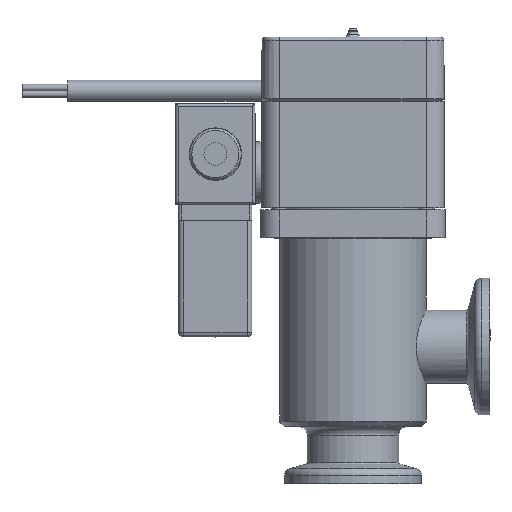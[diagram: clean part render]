
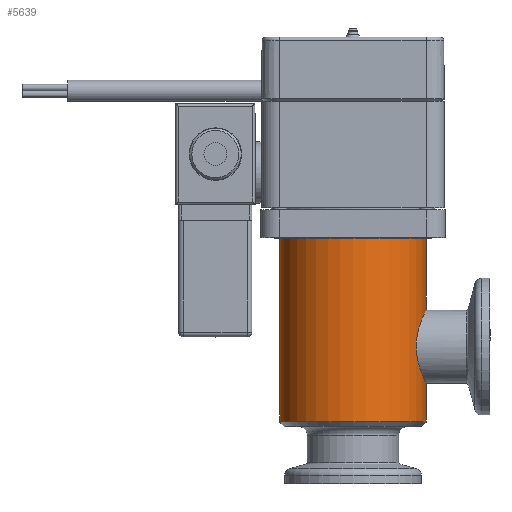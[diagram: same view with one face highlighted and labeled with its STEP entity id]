
A CAD part, top view. The second image highlights one B-rep face of the part: STEP entity #5639.
In plain terms, the highlighted cylindrical face has radius 16 mm (diameter 32 mm), a full revolution.
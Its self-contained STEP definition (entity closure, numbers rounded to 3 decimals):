
#1845=B_SPLINE_CURVE_WITH_KNOTS('',3,(#22851,#22852,#22853,#22854,#22855,
#22856,#22857,#22858,#22859,#22860,#22861,#22862,#22863,#22864,#22865,#22866,
#22867,#22868),.UNSPECIFIED.,.T.,.F.,(2,2,2,2,2,2,2,2,2,2,2),(-0.125,0.,
0.125,0.25,0.375,0.5,0.625,0.75,0.875,1.,1.125),.UNSPECIFIED.);
#5639=ADVANCED_FACE('',(#6316,#6317,#6318),#5842,.T.);
#5842=CYLINDRICAL_SURFACE('',#14750,16.);
#6316=FACE_BOUND('',#7300,.T.);
#6317=FACE_BOUND('',#7301,.T.);
#6318=FACE_BOUND('',#7302,.T.);
#7300=EDGE_LOOP('',(#10298));
#7301=EDGE_LOOP('',(#10299));
#7302=EDGE_LOOP('',(#10300));
#10298=ORIENTED_EDGE('',*,*,#13099,.T.);
#10299=ORIENTED_EDGE('',*,*,#13100,.T.);
#10300=ORIENTED_EDGE('',*,*,#13101,.T.);
#11566=VERTEX_POINT('',#22848);
#11567=VERTEX_POINT('',#22850);
#11568=VERTEX_POINT('',#22869);
#13099=EDGE_CURVE('',#11566,#11566,#13642,.T.);
#13100=EDGE_CURVE('',#11567,#11567,#13643,.T.);
#13101=EDGE_CURVE('',#11568,#11568,#1845,.T.);
#13642=CIRCLE('',#14748,16.);
#13643=CIRCLE('',#14749,16.);
#14748=AXIS2_PLACEMENT_3D('',#22847,#17910,#17911);
#14749=AXIS2_PLACEMENT_3D('',#22849,#17912,#17913);
#14750=AXIS2_PLACEMENT_3D('',#22870,#17914,#17915);
#17910=DIRECTION('',(1.,0.,0.));
#17911=DIRECTION('',(0.,0.,-1.));
#17912=DIRECTION('',(-1.,0.,0.));
#17913=DIRECTION('',(0.,0.,1.));
#17914=DIRECTION('',(-1.,0.,0.));
#17915=DIRECTION('',(0.,0.,1.));
#22847=CARTESIAN_POINT('',(13.5,0.,0.));
#22848=CARTESIAN_POINT('',(13.5,0.,-16.));
#22849=CARTESIAN_POINT('',(53.7,0.,0.));
#22850=CARTESIAN_POINT('',(53.7,0.,16.));
#22851=CARTESIAN_POINT('',(28.398,14.832,-6.));
#22852=CARTESIAN_POINT('',(31.602,14.832,-6.));
#22853=CARTESIAN_POINT('',(33.147,15.126,-5.339));
#22854=CARTESIAN_POINT('',(35.339,15.729,-3.146));
#22855=CARTESIAN_POINT('',(35.999,16.,-1.586));
#22856=CARTESIAN_POINT('',(36.001,16.,1.578));
#22857=CARTESIAN_POINT('',(35.342,15.729,3.145));
#22858=CARTESIAN_POINT('',(33.139,15.124,5.345));
#22859=CARTESIAN_POINT('',(31.579,14.833,5.999));
#22860=CARTESIAN_POINT('',(28.425,14.832,6.001));
#22861=CARTESIAN_POINT('',(26.867,15.122,5.353));
#22862=CARTESIAN_POINT('',(24.647,15.733,3.132));
#22863=CARTESIAN_POINT('',(24.,16.,1.58));
#22864=CARTESIAN_POINT('',(24.,16.,-1.584));
#22865=CARTESIAN_POINT('',(24.659,15.729,-3.146));
#22866=CARTESIAN_POINT('',(26.861,15.124,-5.345));
#22867=CARTESIAN_POINT('',(28.398,14.832,-6.));
#22868=CARTESIAN_POINT('',(31.602,14.832,-6.));
#22869=CARTESIAN_POINT('',(30.,14.832,-6.));
#22870=CARTESIAN_POINT('',(0.,0.,0.));
